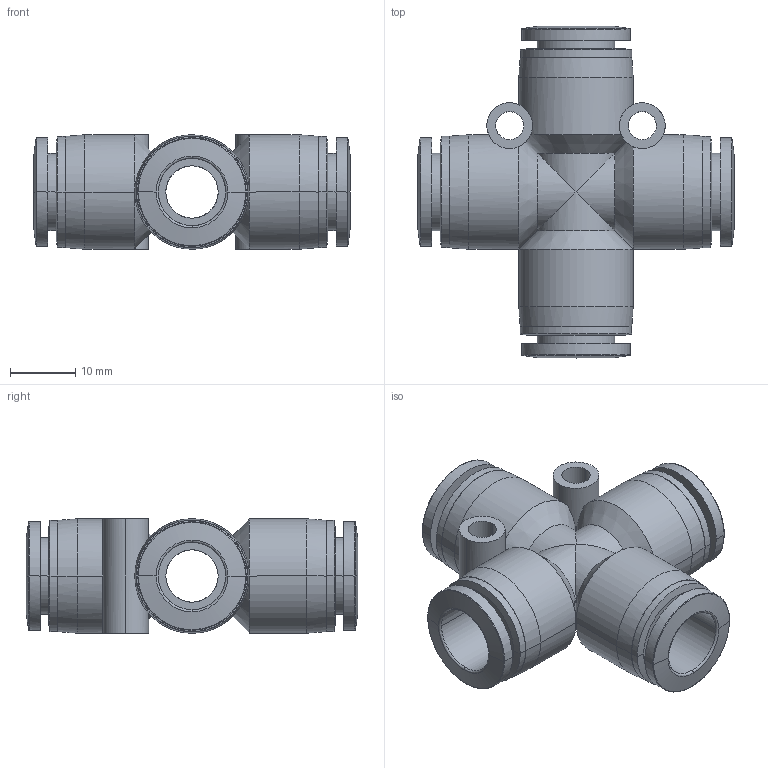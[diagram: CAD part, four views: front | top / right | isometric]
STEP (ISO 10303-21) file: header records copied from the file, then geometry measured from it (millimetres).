
FILE_DESCRIPTION (( 'STEP AP203' ), '1' );
FILE_NAME ('FX10-00.STEP', '2020-05-12T15:25:59', ( '' ), ( '' ), 'SwSTEP 2.0', 'SolidWorks 2019', '' );
FILE_SCHEMA (( 'CONFIG_CONTROL_DESIGN' ));
Length unit declared in the file: millimetre
Products named in the file (1): FX10-00
Bounding box: 48.5 x 50.8 x 17.5 mm (x, y, z)
Surface area: 9549 mm2 (no closed solid volume)
Topology: 0 solids, 1 shells, 132 faces, 328 edges, 199 vertices
Faces by surface type: cylinder 64, cone 32, plane 20, torus 16
Entity records: 7537 total; most frequent: CARTESIAN_POINT 4791, ORIENTED_EDGE 636, DIRECTION 380, EDGE_CURVE 326, B_SPLINE_CURVE_WITH_KNOTS 228, VERTEX_POINT 198, EDGE_LOOP 152, AXIS2_PLACEMENT_3D 149
